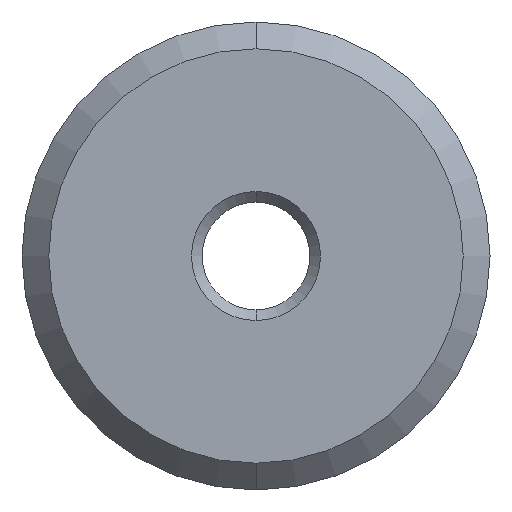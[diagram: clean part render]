
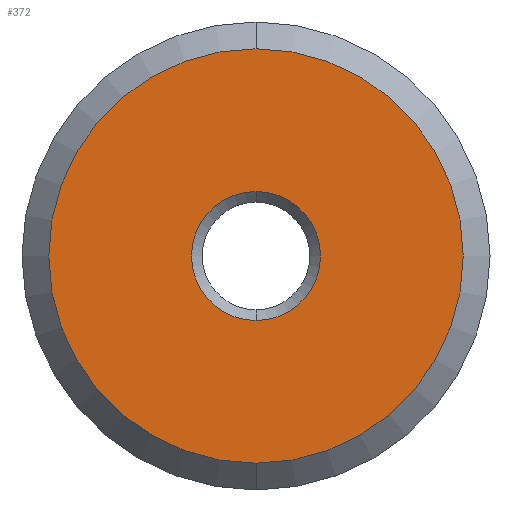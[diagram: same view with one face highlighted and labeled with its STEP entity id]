
A CAD part, front view. The second image highlights one B-rep face of the part: STEP entity #372.
In plain terms, the highlighted planar face has unit normal (0, -1, 0).
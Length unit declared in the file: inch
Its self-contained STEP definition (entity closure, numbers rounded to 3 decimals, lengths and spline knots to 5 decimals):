
#19 = CARTESIAN_POINT ( 'NONE',  ( 0.22327, 0.36861, 0.70104 ) ) ;
#24 = PLANE ( 'NONE',  #300 ) ;
#27 = CIRCLE ( 'NONE', #176, 0.3875 ) ;
#38 = AXIS2_PLACEMENT_3D ( 'NONE', #68, #296, #101 ) ;
#41 = EDGE_LOOP ( 'NONE', ( #338, #362 ) ) ;
#42 = EDGE_CURVE ( 'NONE', #141, #393, #164, .T. ) ;
#56 = DIRECTION ( 'NONE',  ( 0., 1., 0. ) ) ;
#58 = DIRECTION ( 'NONE',  ( 0., 0., 1. ) ) ;
#63 = DIRECTION ( 'NONE',  ( 0., 1., 0. ) ) ;
#68 = CARTESIAN_POINT ( 'NONE',  ( 0.22327, 0.36861, 0.70104 ) ) ;
#69 = CARTESIAN_POINT ( 'NONE',  ( 0.22327, 0.36861, 0.70104 ) ) ;
#88 = CARTESIAN_POINT ( 'NONE',  ( 0.22327, 0.36861, 1.08854 ) ) ;
#97 = VERTEX_POINT ( 'NONE', #370 ) ;
#98 = EDGE_CURVE ( 'NONE', #440, #97, #212, .T. ) ;
#101 = DIRECTION ( 'NONE',  ( 0., 0., 1. ) ) ;
#102 = FACE_OUTER_BOUND ( 'NONE', #202, .T. ) ;
#141 = VERTEX_POINT ( 'NONE', #258 ) ;
#148 = CARTESIAN_POINT ( 'NONE',  ( 0.22327, 0.36861, 0.70104 ) ) ;
#155 = CIRCLE ( 'NONE', #324, 0.1205 ) ;
#164 = CIRCLE ( 'NONE', #38, 0.1205 ) ;
#176 = AXIS2_PLACEMENT_3D ( 'NONE', #19, #249, #58 ) ;
#202 = EDGE_LOOP ( 'NONE', ( #221, #445 ) ) ;
#212 = CIRCLE ( 'NONE', #260, 0.3875 ) ;
#221 = ORIENTED_EDGE ( 'NONE', *, *, #98, .T. ) ;
#245 = CARTESIAN_POINT ( 'NONE',  ( 0.22327, 0.36861, 0.70104 ) ) ;
#249 = DIRECTION ( 'NONE',  ( 0., -1., 0. ) ) ;
#258 = CARTESIAN_POINT ( 'NONE',  ( 0.22327, 0.36861, 0.82154 ) ) ;
#260 = AXIS2_PLACEMENT_3D ( 'NONE', #69, #344, #424 ) ;
#269 = FACE_BOUND ( 'NONE', #41, .T. ) ;
#287 = DIRECTION ( 'NONE',  ( 0., 0., 1. ) ) ;
#291 = DIRECTION ( 'NONE',  ( 0., 0., 1. ) ) ;
#296 = DIRECTION ( 'NONE',  ( 0., 1., 0. ) ) ;
#300 = AXIS2_PLACEMENT_3D ( 'NONE', #148, #63, #291 ) ;
#324 = AXIS2_PLACEMENT_3D ( 'NONE', #245, #56, #287 ) ;
#329 = CARTESIAN_POINT ( 'NONE',  ( 0.22327, 0.36861, 0.58054 ) ) ;
#338 = ORIENTED_EDGE ( 'NONE', *, *, #417, .T. ) ;
#343 = EDGE_CURVE ( 'NONE', #97, #440, #27, .T. ) ;
#344 = DIRECTION ( 'NONE',  ( 0., -1., 0. ) ) ;
#362 = ORIENTED_EDGE ( 'NONE', *, *, #42, .T. ) ;
#370 = CARTESIAN_POINT ( 'NONE',  ( 0.22327, 0.36861, 0.31354 ) ) ;
#372 = ADVANCED_FACE ( 'NONE', ( #269, #102 ), #24, .F. ) ;
#393 = VERTEX_POINT ( 'NONE', #329 ) ;
#417 = EDGE_CURVE ( 'NONE', #393, #141, #155, .T. ) ;
#424 = DIRECTION ( 'NONE',  ( 0., 0., 1. ) ) ;
#440 = VERTEX_POINT ( 'NONE', #88 ) ;
#445 = ORIENTED_EDGE ( 'NONE', *, *, #343, .T. ) ;
